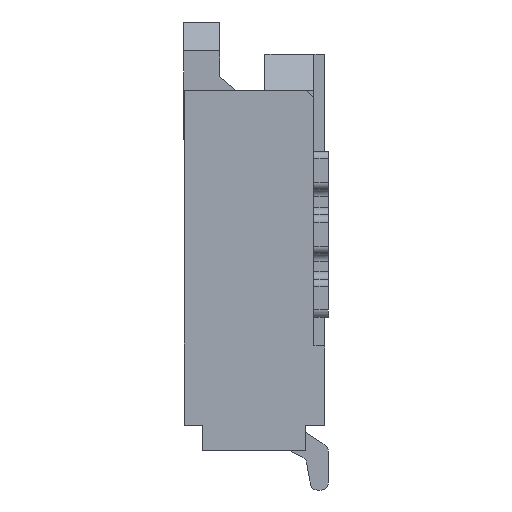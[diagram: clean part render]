
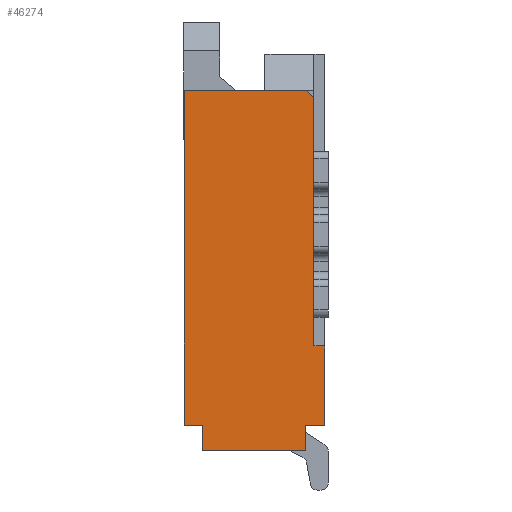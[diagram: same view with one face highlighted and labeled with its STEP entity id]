
A CAD part, left-side view. The second image highlights one B-rep face of the part: STEP entity #46274.
In plain terms, the highlighted planar face has unit normal (-1, 0, 0).
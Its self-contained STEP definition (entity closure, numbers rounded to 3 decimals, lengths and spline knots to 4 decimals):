
#13=DIRECTION('',(0.,0.,1.));
#14=VECTOR('',#13,4.65);
#15=CARTESIAN_POINT('',(-6.95,2.0001,-5.5998));
#16=LINE('',#15,#14);
#1973=DIRECTION('',(0.,0.,-1.));
#1974=VECTOR('',#1973,1.1);
#1975=CARTESIAN_POINT('',(-6.95,0.0501,-4.4998));
#1976=LINE('',#1975,#1974);
#1977=DIRECTION('',(0.,1.,0.));
#1978=VECTOR('',#1977,0.27);
#1979=CARTESIAN_POINT('',(-6.95,0.0501,-5.5998));
#1980=LINE('',#1979,#1978);
#1981=DIRECTION('',(0.,1.,0.));
#1982=VECTOR('',#1981,0.25);
#1983=CARTESIAN_POINT('',(-6.95,1.7501,-5.5998));
#1984=LINE('',#1983,#1982);
#1985=DIRECTION('',(0.,-0.707,-0.707));
#1986=VECTOR('',#1985,0.1414);
#1987=CARTESIAN_POINT('',(-6.95,0.3001,-0.9498));
#1988=LINE('',#1987,#1986);
#1999=DIRECTION('',(0.,0.,-1.));
#2000=VECTOR('',#1999,0.5864);
#2001=CARTESIAN_POINT('',(-6.95,0.2001,
-1.7998));
#2002=LINE('',#2001,#2000);
#2149=DIRECTION('',(0.,0.,1.));
#2150=VECTOR('',#2149,0.4);
#2151=CARTESIAN_POINT('',(-6.95,0.2001,-4.4998));
#2152=LINE('',#2151,#2150);
#2170=DIRECTION('',(0.,0.,-1.));
#2171=VECTOR('',#2170,0.5864);
#2172=CARTESIAN_POINT('',(-6.95,0.2001,
-3.5134));
#2173=LINE('',#2172,#2171);
#2234=DIRECTION('',(0.,0.,1.));
#2235=VECTOR('',#2234,0.2372);
#2236=CARTESIAN_POINT('',(-6.95,0.2001,
-3.5134));
#2237=LINE('',#2236,#2235);
#2264=DIRECTION('',(0.,0.,-1.));
#2265=VECTOR('',#2264,0.6528);
#2266=CARTESIAN_POINT('',(-6.95,0.2001,
-2.6234));
#2267=LINE('',#2266,#2265);
#2336=DIRECTION('',(0.,0.,1.));
#2337=VECTOR('',#2336,0.2372);
#2338=CARTESIAN_POINT('',(-6.95,0.2001,
-2.6234));
#2339=LINE('',#2338,#2337);
#2675=DIRECTION('',(0.,-1.,0.));
#2676=VECTOR('',#2675,0.15);
#2677=CARTESIAN_POINT('',(-6.95,0.2001,-4.4998));
#2678=LINE('',#2677,#2676);
#3097=DIRECTION('',(0.,-1.,0.));
#3098=VECTOR('',#3097,1.7);
#3099=CARTESIAN_POINT('',(-6.95,2.0001,-0.9498));
#3100=LINE('',#3099,#3098);
#3349=DIRECTION('',(0.,0.,1.));
#3350=VECTOR('',#3349,0.75);
#3351=CARTESIAN_POINT('',(-6.95,0.2001,
-1.7998));
#3352=LINE('',#3351,#3350);
#12314=DIRECTION('',(0.,0.,1.));
#12315=VECTOR('',#12314,0.35);
#12316=CARTESIAN_POINT('',(-6.95,0.3201,-5.9498));
#12317=LINE('',#12316,#12315);
#12378=DIRECTION('',(0.,0.,1.));
#12379=VECTOR('',#12378,0.35);
#12380=CARTESIAN_POINT('',(-6.95,1.7501,-5.9498));
#12381=LINE('',#12380,#12379);
#12390=DIRECTION('',(0.,-1.,0.));
#12391=VECTOR('',#12390,1.43);
#12392=CARTESIAN_POINT('',(-6.95,1.7501,-5.9498));
#12393=LINE('',#12392,#12391);
#32469=CARTESIAN_POINT('',(-6.95,0.0501,-5.5998));
#32470=CARTESIAN_POINT('',(-6.95,0.3201,-5.5998));
#32471=VERTEX_POINT('',#32469);
#32472=VERTEX_POINT('',#32470);
#32485=CARTESIAN_POINT('',(-6.95,1.7501,-5.5998));
#32486=VERTEX_POINT('',#32485);
#32487=CARTESIAN_POINT('',(-6.95,2.0001,-5.5998));
#32488=VERTEX_POINT('',#32487);
#32880=CARTESIAN_POINT('',(-6.95,0.0501,-4.4998));
#32881=VERTEX_POINT('',#32880);
#32882=CARTESIAN_POINT('',(-6.95,0.2001,
-1.7998));
#32883=CARTESIAN_POINT('',(-6.95,0.2001,
-2.3862));
#32884=VERTEX_POINT('',#32882);
#32885=VERTEX_POINT('',#32883);
#32886=CARTESIAN_POINT('',(-6.95,0.2001,-1.0498));
#32887=VERTEX_POINT('',#32886);
#32888=CARTESIAN_POINT('',(-6.95,0.3001,-0.9498));
#32889=VERTEX_POINT('',#32888);
#32890=CARTESIAN_POINT('',(-6.95,2.0001,-0.9498));
#32891=VERTEX_POINT('',#32890);
#32892=CARTESIAN_POINT('',(-6.95,1.7501,-5.9498));
#32893=VERTEX_POINT('',#32892);
#32894=CARTESIAN_POINT('',(-6.95,0.3201,-5.9498));
#32895=VERTEX_POINT('',#32894);
#32896=CARTESIAN_POINT('',(-6.95,0.2001,-4.4998));
#32897=VERTEX_POINT('',#32896);
#32898=CARTESIAN_POINT('',(-6.95,0.2001,
-4.0998));
#32899=VERTEX_POINT('',#32898);
#32900=CARTESIAN_POINT('',(-6.95,0.2001,
-3.5134));
#32901=VERTEX_POINT('',#32900);
#32902=CARTESIAN_POINT('',(-6.95,0.2001,
-3.2762));
#32903=VERTEX_POINT('',#32902);
#32904=CARTESIAN_POINT('',(-6.95,0.2001,
-2.6234));
#32905=VERTEX_POINT('',#32904);
#46237=CARTESIAN_POINT('',(-6.95,1.0251,-3.4498));
#46238=DIRECTION('',(1.,0.,0.));
#46239=DIRECTION('',(0.,1.,0.));
#46240=AXIS2_PLACEMENT_3D('',#46237,#46238,#46239);
#46241=PLANE('',#46240);
#46243=ORIENTED_EDGE('',*,*,#46242,.T.);
#46245=ORIENTED_EDGE('',*,*,#46244,.F.);
#46247=ORIENTED_EDGE('',*,*,#46246,.T.);
#46249=ORIENTED_EDGE('',*,*,#46248,.F.);
#46251=ORIENTED_EDGE('',*,*,#46250,.T.);
#46253=ORIENTED_EDGE('',*,*,#46252,.F.);
#46255=ORIENTED_EDGE('',*,*,#46254,.T.);
#46256=ORIENTED_EDGE('',*,*,#46209,.T.);
#46257=ORIENTED_EDGE('',*,*,#42159,.T.);
#46259=ORIENTED_EDGE('',*,*,#46258,.F.);
#46261=ORIENTED_EDGE('',*,*,#46260,.F.);
#46263=ORIENTED_EDGE('',*,*,#46262,.T.);
#46264=ORIENTED_EDGE('',*,*,#42143,.T.);
#46265=ORIENTED_EDGE('',*,*,#42849,.T.);
#46267=ORIENTED_EDGE('',*,*,#46266,.T.);
#46269=ORIENTED_EDGE('',*,*,#46268,.T.);
#46271=ORIENTED_EDGE('',*,*,#46270,.F.);
#46272=EDGE_LOOP('',(#46243,#46245,#46247,#46249,#46251,#46253,#46255,#46256,
#46257,#46259,#46261,#46263,#46264,#46265,#46267,#46269,#46271));
#46273=FACE_OUTER_BOUND('',#46272,.F.);
#42143=EDGE_CURVE('',#32486,#32488,#1984,.T.);
#42159=EDGE_CURVE('',#32471,#32472,#1980,.T.);
#42849=EDGE_CURVE('',#32488,#32891,#16,.T.);
#46209=EDGE_CURVE('',#32881,#32471,#1976,.T.);
#46242=EDGE_CURVE('',#32884,#32885,#2002,.T.);
#46244=EDGE_CURVE('',#32905,#32885,#2339,.T.);
#46246=EDGE_CURVE('',#32905,#32903,#2267,.T.);
#46248=EDGE_CURVE('',#32901,#32903,#2237,.T.);
#46250=EDGE_CURVE('',#32901,#32899,#2173,.T.);
#46252=EDGE_CURVE('',#32897,#32899,#2152,.T.);
#46254=EDGE_CURVE('',#32897,#32881,#2678,.T.);
#46258=EDGE_CURVE('',#32895,#32472,#12317,.T.);
#46260=EDGE_CURVE('',#32893,#32895,#12393,.T.);
#46262=EDGE_CURVE('',#32893,#32486,#12381,.T.);
#46266=EDGE_CURVE('',#32891,#32889,#3100,.T.);
#46268=EDGE_CURVE('',#32889,#32887,#1988,.T.);
#46270=EDGE_CURVE('',#32884,#32887,#3352,.T.);
#46274=ADVANCED_FACE('',(#46273),#46241,.F.);
